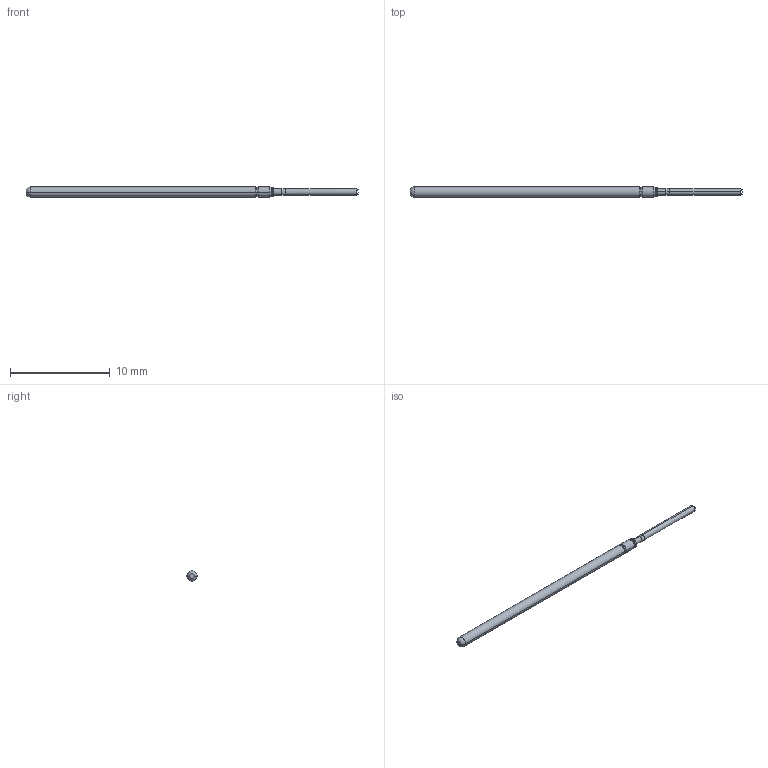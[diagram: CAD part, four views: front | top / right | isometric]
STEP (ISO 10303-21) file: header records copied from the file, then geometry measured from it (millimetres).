
FILE_DESCRIPTION (( 'STEP AP203' ), '1' );
FILE_NAME ('101024-063-922 (REST).STEP', '2022-11-18T09:51:11', ( '' ), ( '' ), 'SwSTEP 2.0', 'SolidWorks 2022', '' );
FILE_SCHEMA (( 'CONFIG_CONTROL_DESIGN' ));
Length unit declared in the file: inch
Products named in the file (1): 101024-063-922 (REST)
Bounding box: 33.27 x 1.02 x 1.02 mm (x, y, z)
Volume: 22.8 mm3; surface area: 97.5 mm2
Topology: 1 solids, 1 shells, 53 faces, 106 edges, 57 vertices
Faces by surface type: plane 31, cylinder 10, torus 6, cone 6
Entity records: 1403 total; most frequent: CARTESIAN_POINT 283, DIRECTION 224, ORIENTED_EDGE 212, EDGE_CURVE 106, AXIS2_PLACEMENT_3D 86, VERTEX_POINT 57, EDGE_LOOP 55, ADVANCED_FACE 53
